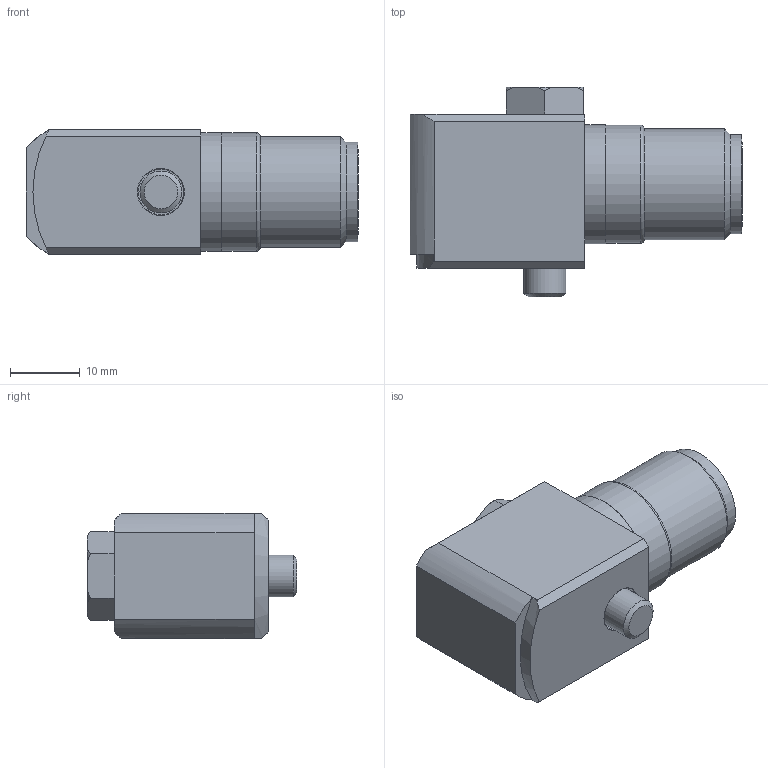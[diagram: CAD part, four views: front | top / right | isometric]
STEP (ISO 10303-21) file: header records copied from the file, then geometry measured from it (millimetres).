
FILE_DESCRIPTION(/* description */ (''),/* implementation_level */ '2;1');
FILE_NAME(/* name */ 'HS-180SXXX5006.0001.stp',/* time_stamp */ '2025-03-10T13:05:50Z',/* author */ ('Kieran.Davis'),/* organization */ (''),/* preprocessor_version */ 'ST-DEVELOPER v20',/* originating_system */ 'Autodesk Inventor 2024',/* authorisation */ '');
FILE_SCHEMA (('AUTOMOTIVE_DESIGN { 1 0 10303 214 3 1 1 }'));
Length unit declared in the file: millimetre
Products named in the file (5): HS-180SXXX5006; C02-130-D Modified 2 Pin MS Connector; M02-122-C HS-180S Side Exit Base; M05-102-A (HS-180S Side Exit Sealing Cap); M01-214-A(M6 Mod Hex Bolt)
Assembly tree (4 placements, depth 2):
  HS-180SXXX5006
    C02-130-D Modified 2 Pin MS Connector
    M02-122-C HS-180S Side Exit Base
    M05-102-A (HS-180S Side Exit Sealing Cap)
    M01-214-A(M6 Mod Hex Bolt)
Bounding box: 47.5 x 30 x 18 mm (x, y, z)
Volume: 9561.4 mm3; surface area: 7587.3 mm2
Topology: 4 solids, 4 shells, 67 faces, 141 edges, 92 vertices
Faces by surface type: plane 33, cylinder 19, cone 11, torus 4
Full cylindrical faces by diameter (mm): 2.5 x1, 4.5 x1, 5.359 x1, 6 x1, 6.5 x1, 10.4 x1, 11.5 x1, 13.8 x1, 14.2 x3, 15.2 x1, 15.5 x1, 15.9 x1, 16.9 x1, 17 x1
Entity records: 2056 total; most frequent: CARTESIAN_POINT 368, DIRECTION 345, ORIENTED_EDGE 282, EDGE_CURVE 141, AXIS2_PLACEMENT_3D 141, VERTEX_POINT 92, EDGE_LOOP 81, FACE_OUTER_BOUND 67
